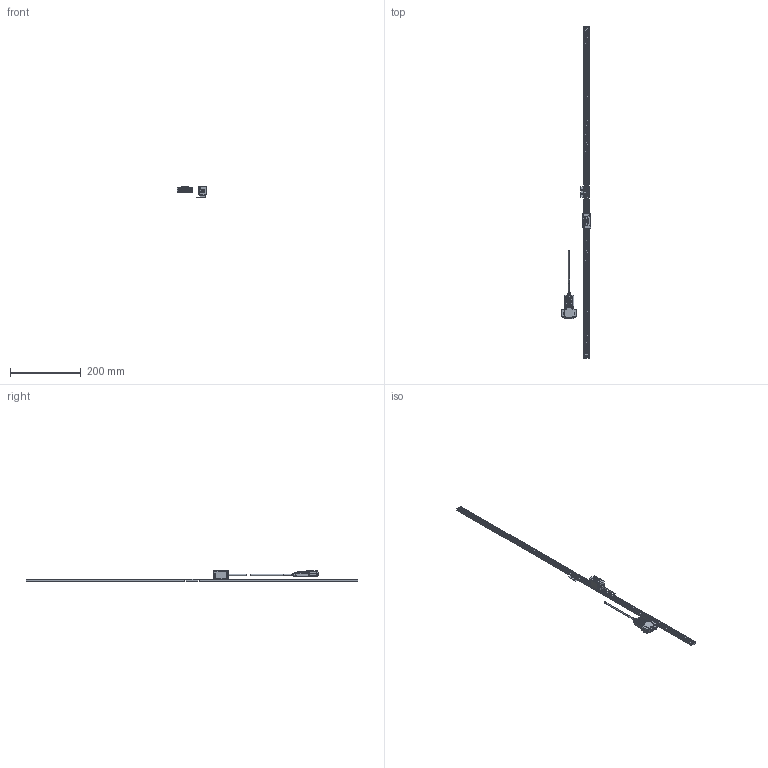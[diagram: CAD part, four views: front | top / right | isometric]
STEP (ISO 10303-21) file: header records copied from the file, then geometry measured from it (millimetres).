
FILE_DESCRIPTION(('Creo Elements/Direct Modeling STEP Export'),'2;1');
FILE_NAME('ST1300-900F_G.stp','2022-08-16T10:17:17',(''),(''),'Creo Elements/Direct Modeling STEP processor for AP214 (Solid Model)','Creo Elements/Direct Modeling 18.1I 13-Aug-2016 (C) Parametric Technology GmbH','');
FILE_SCHEMA(('AUTOMOTIVE_DESIGN { 1 0 10303 214 1 1 1 1 }'));
Length unit declared in the file: millimetre
Products named in the file (4): Scale_900; Detector_Head; Connector; ST1300-900F_G
Assembly tree (3 placements, depth 2):
  ST1300-900F_G
    Connector
    Detector_Head
    Scale_900
Bounding box: 83 x 940 x 30.1 mm (x, y, z)
Volume: 96868.7 mm3; surface area: 61298.3 mm2
Topology: 2 solids, 6 shells, 3465 faces, 9554 edges, 6237 vertices
Faces by surface type: plane 1640, cylinder 1531, extrusion 154, cone 87, torus 26, bspline 23, revolution 4
Entity records: 115655 total; most frequent: CARTESIAN_POINT 26545, ORIENTED_EDGE 19092, DIRECTION 18057, EDGE_CURVE 9542, VERTEX_POINT 6237, AXIS2_PLACEMENT_3D 6097, VECTOR 5857, LINE 5733
